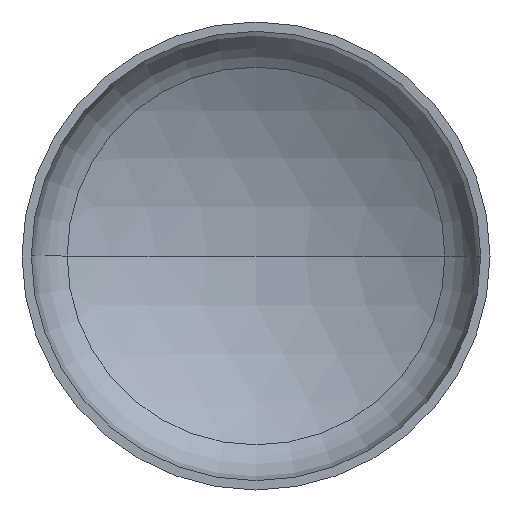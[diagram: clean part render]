
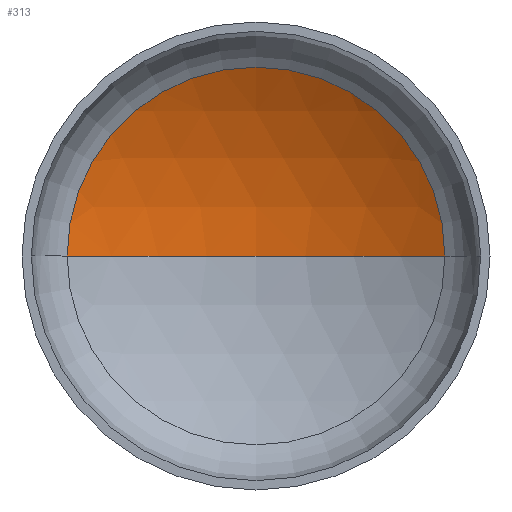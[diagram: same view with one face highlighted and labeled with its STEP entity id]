
A CAD part, front view. The second image highlights one B-rep face of the part: STEP entity #313.
In plain terms, the highlighted spherical face has radius 2880 mm.
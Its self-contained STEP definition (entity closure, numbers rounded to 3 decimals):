
#4 = CARTESIAN_POINT ( 'NONE',  ( -1453.006, 599.188, 0. ) ) ;
#13 = EDGE_LOOP ( 'NONE', ( #47, #36, #131 ) ) ;
#19 = AXIS2_PLACEMENT_3D ( 'NONE', #278, #279, #197 ) ;
#20 = AXIS2_PLACEMENT_3D ( 'NONE', #202, #148, #315 ) ;
#22 = AXIS2_PLACEMENT_3D ( 'NONE', #170, #166, #167 ) ;
#24 = AXIS2_PLACEMENT_3D ( 'NONE', #57, #31, #396 ) ;
#31 = DIRECTION ( 'NONE',  ( 0., 0., -1. ) ) ;
#36 = ORIENTED_EDGE ( 'NONE', *, *, #335, .T. ) ;
#47 = ORIENTED_EDGE ( 'NONE', *, *, #341, .F. ) ;
#57 = CARTESIAN_POINT ( 'NONE',  ( 0., -1887.41, 0. ) ) ;
#95 = CIRCLE ( 'NONE', #22, 1453.006 ) ;
#121 = SPHERICAL_SURFACE ( 'NONE', #24, 2880. ) ;
#129 = VERTEX_POINT ( 'NONE', #308 ) ;
#131 = ORIENTED_EDGE ( 'NONE', *, *, #327, .T. ) ;
#143 = VERTEX_POINT ( 'NONE', #224 ) ;
#148 = DIRECTION ( 'NONE',  ( 0., 0., -1. ) ) ;
#166 = DIRECTION ( 'NONE',  ( 0., -1., 0. ) ) ;
#167 = DIRECTION ( 'NONE',  ( 1., 0., 0. ) ) ;
#170 = CARTESIAN_POINT ( 'NONE',  ( 0., 599.188, 0. ) ) ;
#182 = VERTEX_POINT ( 'NONE', #4 ) ;
#195 = FACE_OUTER_BOUND ( 'NONE', #13, .T. ) ;
#197 = DIRECTION ( 'NONE',  ( 1., 0., 0. ) ) ;
#202 = CARTESIAN_POINT ( 'NONE',  ( 0., -1887.41, 0. ) ) ;
#224 = CARTESIAN_POINT ( 'NONE',  ( 0., 992.59, 0. ) ) ;
#278 = CARTESIAN_POINT ( 'NONE',  ( 0., -1887.41, 0. ) ) ;
#279 = DIRECTION ( 'NONE',  ( 0., 0., 1. ) ) ;
#308 = CARTESIAN_POINT ( 'NONE',  ( 1453.006, 599.188, 0. ) ) ;
#311 = CIRCLE ( 'NONE', #20, 2880. ) ;
#313 = ADVANCED_FACE ( 'NONE', ( #195 ), #121, .F. ) ;
#315 = DIRECTION ( 'NONE',  ( -1., 0., 0. ) ) ;
#327 = EDGE_CURVE ( 'NONE', #129, #182, #95, .T. ) ;
#335 = EDGE_CURVE ( 'NONE', #143, #129, #311, .T. ) ;
#341 = EDGE_CURVE ( 'NONE', #143, #182, #369, .T. ) ;
#369 = CIRCLE ( 'NONE', #19, 2880. ) ;
#396 = DIRECTION ( 'NONE',  ( -1., 0., 0. ) ) ;
